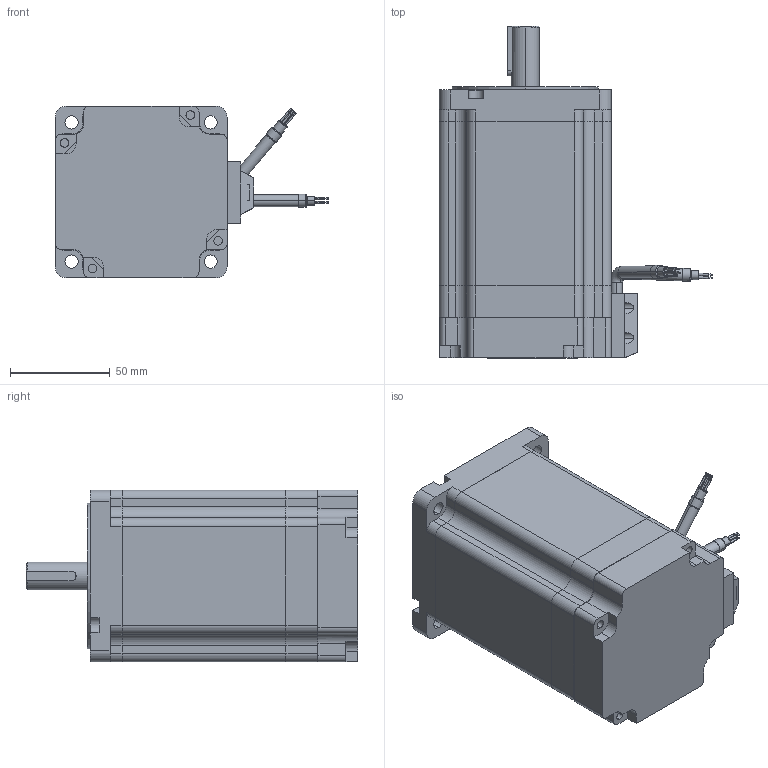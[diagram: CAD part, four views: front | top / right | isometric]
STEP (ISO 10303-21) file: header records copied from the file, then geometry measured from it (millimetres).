
FILE_DESCRIPTION (( 'STEP AP214' ), '1' );
FILE_NAME ('86HS2114-6004E-XXX.STEP', '2023-10-08T08:03:46', ( 'MM' ), ( 'Microsoft' ), 'SwSTEP 2.0', 'SolidWorks 2020', '' );
FILE_SCHEMA (( 'AUTOMOTIVE_DESIGN' ));
Length unit declared in the file: millimetre
Products named in the file (1): 86HS2114-6004E-XXX
Bounding box: 136.87 x 166 x 86 mm (x, y, z)
Volume: 826700.4 mm3; surface area: 95398.8 mm2
Topology: 4 solids, 4 shells, 412 faces, 1089 edges, 712 vertices
Faces by surface type: cylinder 196, plane 179, torus 22, cone 8, bspline 7
Entity records: 14434 total; most frequent: CARTESIAN_POINT 2537, DIRECTION 2353, ORIENTED_EDGE 2178, EDGE_CURVE 1089, AXIS2_PLACEMENT_3D 876, VERTEX_POINT 712, LINE 601, VECTOR 601
